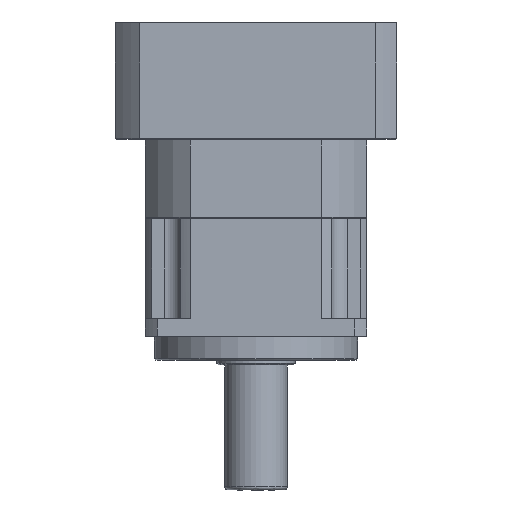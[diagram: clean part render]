
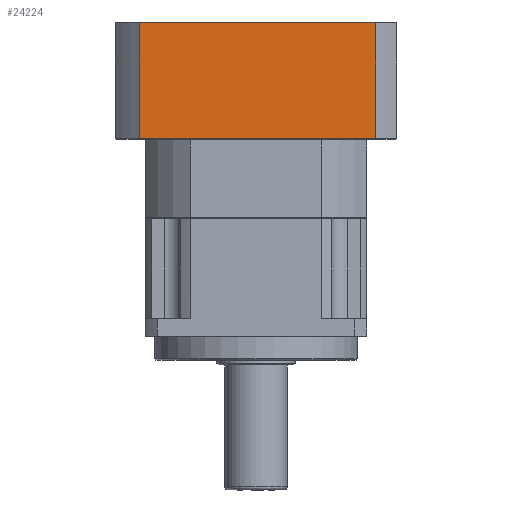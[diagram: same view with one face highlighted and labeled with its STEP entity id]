
A CAD part, front view. The second image highlights one B-rep face of the part: STEP entity #24224.
In plain terms, the highlighted planar face has unit normal (0, 1, 0).
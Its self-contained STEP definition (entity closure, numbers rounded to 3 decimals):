
#3615 = CARTESIAN_POINT ( 'NONE',  ( 76.54, -90., 201. ) ) ;
#4801 = EDGE_LOOP ( 'NONE', ( #22721, #88173, #84317, #9072 ) ) ;
#5356 = EDGE_CURVE ( 'NONE', #67206, #94886, #8984, .T. ) ;
#8984 = LINE ( 'NONE', #87684, #27533 ) ;
#9072 = ORIENTED_EDGE ( 'NONE', *, *, #38846, .T. ) ;
#12934 = AXIS2_PLACEMENT_3D ( 'NONE', #38281, #93610, #46199 ) ;
#22721 = ORIENTED_EDGE ( 'NONE', *, *, #5356, .T. ) ;
#24224 = ADVANCED_FACE ( 'NONE', ( #43684 ), #101263, .T. ) ;
#24649 = LINE ( 'NONE', #75178, #27118 ) ;
#26614 = EDGE_CURVE ( 'NONE', #93423, #43268, #24649, .T. ) ;
#27118 = VECTOR ( 'NONE', #98410, 1000. ) ;
#27533 = VECTOR ( 'NONE', #63750, 1000. ) ;
#32794 = VECTOR ( 'NONE', #83746, 1000. ) ;
#32798 = EDGE_CURVE ( 'NONE', #93423, #94886, #95891, .T. ) ;
#38281 = CARTESIAN_POINT ( 'NONE',  ( -74.54, -90., 127. ) ) ;
#38846 = EDGE_CURVE ( 'NONE', #43268, #67206, #57962, .T. ) ;
#43268 = VERTEX_POINT ( 'NONE', #66786 ) ;
#43684 = FACE_OUTER_BOUND ( 'NONE', #4801, .T. ) ;
#43920 = CARTESIAN_POINT ( 'NONE',  ( 1., -90., 201. ) ) ;
#46199 = DIRECTION ( 'NONE',  ( 0., 0., 1. ) ) ;
#50967 = CARTESIAN_POINT ( 'NONE',  ( -74.54, -90., 201. ) ) ;
#57370 = CARTESIAN_POINT ( 'NONE',  ( 1., -90., 127. ) ) ;
#57962 = LINE ( 'NONE', #57370, #97613 ) ;
#63750 = DIRECTION ( 'NONE',  ( 0., 0., 1. ) ) ;
#65293 = DIRECTION ( 'NONE',  ( -1., 0., 0. ) ) ;
#66786 = CARTESIAN_POINT ( 'NONE',  ( 76.54, -90., 127. ) ) ;
#67206 = VERTEX_POINT ( 'NONE', #68225 ) ;
#68225 = CARTESIAN_POINT ( 'NONE',  ( -74.54, -90., 127. ) ) ;
#75178 = CARTESIAN_POINT ( 'NONE',  ( 76.54, -90., 164. ) ) ;
#83746 = DIRECTION ( 'NONE',  ( -1., 0., 0. ) ) ;
#84317 = ORIENTED_EDGE ( 'NONE', *, *, #26614, .T. ) ;
#87684 = CARTESIAN_POINT ( 'NONE',  ( -74.54, -90., 164. ) ) ;
#88173 = ORIENTED_EDGE ( 'NONE', *, *, #32798, .F. ) ;
#93423 = VERTEX_POINT ( 'NONE', #3615 ) ;
#93610 = DIRECTION ( 'NONE',  ( 0., 1., 0. ) ) ;
#94886 = VERTEX_POINT ( 'NONE', #50967 ) ;
#95891 = LINE ( 'NONE', #43920, #32794 ) ;
#97613 = VECTOR ( 'NONE', #65293, 1000. ) ;
#98410 = DIRECTION ( 'NONE',  ( 0., 0., -1. ) ) ;
#101263 = PLANE ( 'NONE',  #12934 ) ;
